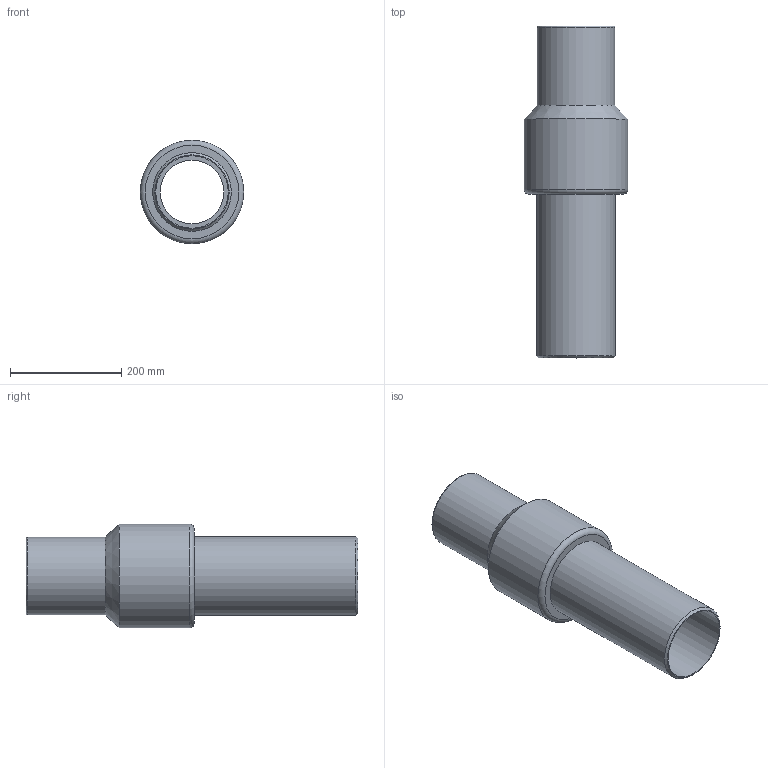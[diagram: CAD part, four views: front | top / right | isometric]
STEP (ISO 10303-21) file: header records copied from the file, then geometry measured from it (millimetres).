
FILE_DESCRIPTION(/* description */ ('Unknown'),/* implementation_level */ '2;1');
FILE_NAME(/* name */ 'RTSNP140C',/* time_stamp */ '2022-04-26T17:36:40+02:00',/* author */ ('Unknown'),/* organization */ ('Unknown'),/* preprocessor_version */ 'ST-DEVELOPER v18.1',/* originating_system */ 'Solid Edge',/* authorisation */ 'Unknown');
FILE_SCHEMA (('AUTOMOTIVE_DESIGN {1 0 10303 214 3 1 1}'));
Length unit declared in the file: millimetre
Products named in the file (3): RTSNP140C; Parte PE_; Partea ACCIAIO
Assembly tree (2 placements, depth 2):
  RTSNP140C
    Parte PE_
    Partea ACCIAIO
Bounding box: 186 x 596 x 186 mm (x, y, z)
Volume: 3540101 mm3; surface area: 668554.3 mm2
Topology: 2 solids, 2 shells, 15 faces, 27 edges, 17 vertices
Faces by surface type: cylinder 6, plane 5, cone 2, torus 2
Full cylindrical faces by diameter (mm): 114.6 x1, 130.18 x1, 140 x1, 141.3 x2, 186 x1
Entity records: 388 total; most frequent: DIRECTION 66, CARTESIAN_POINT 48, AXIS2_PLACEMENT_3D 33, ORIENTED_EDGE 30, EDGE_LOOP 30, FACE_BOUND 30, EDGE_CURVE 15, VERTEX_POINT 15
